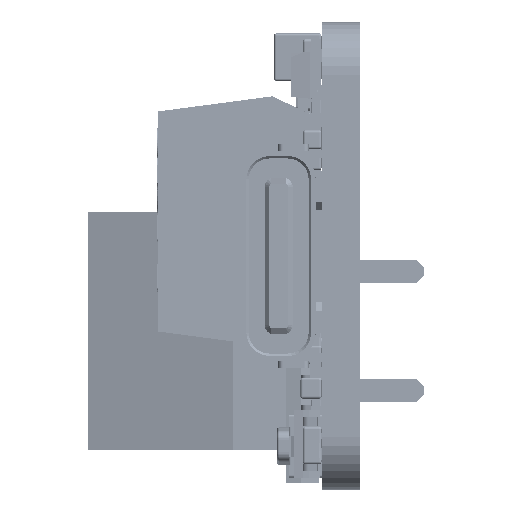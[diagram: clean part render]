
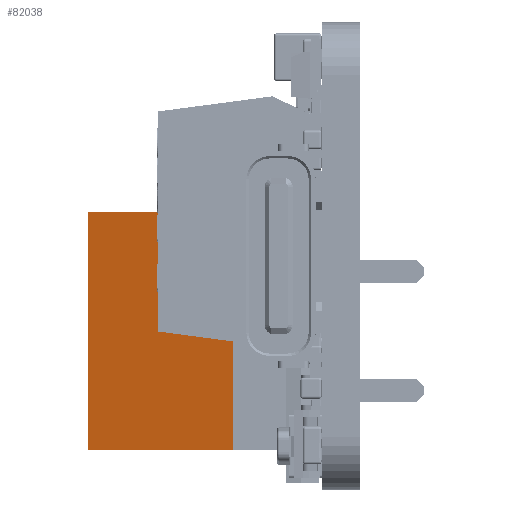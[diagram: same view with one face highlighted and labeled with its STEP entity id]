
A CAD part, left-side view. The second image highlights one B-rep face of the part: STEP entity #82038.
In plain terms, the highlighted planar face has unit normal (-0.968, 0.25, 0) as drawn and (0.968, 0.25, 0) by its records, which use the part's own axes.
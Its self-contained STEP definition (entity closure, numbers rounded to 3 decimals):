
#9812 = DIRECTION ( 'NONE',  ( -0.25, 0.968, 0. ) ) ;
#9843 = CARTESIAN_POINT ( 'NONE',  ( 4.05, 3.8, -5.08 ) ) ;
#10038 = CARTESIAN_POINT ( 'NONE',  ( 2.45, 10., 0. ) ) ;
#10042 = DIRECTION ( 'NONE',  ( 0., 0., 1. ) ) ;
#10096 = CARTESIAN_POINT ( 'NONE',  ( 4.05, 3.8, 5.08 ) ) ;
#10104 = DIRECTION ( 'NONE',  ( -0.25, 0.968, 0. ) ) ;
#10162 = CARTESIAN_POINT ( 'NONE',  ( 4.05, 3.8, 0. ) ) ;
#10198 = DIRECTION ( 'NONE',  ( 0., 0., 1. ) ) ;
#11618 = LINE ( 'NONE', #9843, #11623 ) ;
#11623 = VECTOR ( 'NONE', #9812, 1000. ) ;
#11782 = LINE ( 'NONE', #10096, #11843 ) ;
#11799 = VECTOR ( 'NONE', #10042, 1000. ) ;
#11834 = LINE ( 'NONE', #10038, #11799 ) ;
#11843 = VECTOR ( 'NONE', #10104, 1000. ) ;
#11970 = LINE ( 'NONE', #10162, #11979 ) ;
#11979 = VECTOR ( 'NONE', #10198, 1000. ) ;
#49929 = VERTEX_POINT ( 'NONE', #104864 ) ;
#49989 = VERTEX_POINT ( 'NONE', #104918 ) ;
#50016 = VERTEX_POINT ( 'NONE', #104885 ) ;
#50048 = VERTEX_POINT ( 'NONE', #104875 ) ;
#53979 = ORIENTED_EDGE ( 'NONE', *, *, #133361, .F. ) ;
#54045 = ORIENTED_EDGE ( 'NONE', *, *, #133315, .F. ) ;
#54075 = ORIENTED_EDGE ( 'NONE', *, *, #133270, .T. ) ;
#54120 = ORIENTED_EDGE ( 'NONE', *, *, #133333, .T. ) ;
#82038 = ADVANCED_FACE ( 'NONE', ( #260836 ), #244153, .T. ) ;
#104864 = CARTESIAN_POINT ( 'NONE',  ( 2.45, 10., 5.08 ) ) ;
#104875 = CARTESIAN_POINT ( 'NONE',  ( 4.05, 3.8, 5.08 ) ) ;
#104885 = CARTESIAN_POINT ( 'NONE',  ( 2.45, 10., -5.08 ) ) ;
#104918 = CARTESIAN_POINT ( 'NONE',  ( 4.05, 3.8, -5.08 ) ) ;
#133270 = EDGE_CURVE ( 'NONE', #49989, #50016, #11618, .T. ) ;
#133315 = EDGE_CURVE ( 'NONE', #50048, #49929, #11782, .T. ) ;
#133333 = EDGE_CURVE ( 'NONE', #50016, #49929, #11834, .T. ) ;
#133361 = EDGE_CURVE ( 'NONE', #49989, #50048, #11970, .T. ) ;
#160012 = AXIS2_PLACEMENT_3D ( 'NONE', #244176, #244249, #244250 ) ;
#244153 = PLANE ( 'NONE',  #160012 ) ;
#244176 = CARTESIAN_POINT ( 'NONE',  ( 4.05, 3.8, 0. ) ) ;
#244249 = DIRECTION ( 'NONE',  ( 0.968, 0.25, 0. ) ) ;
#244250 = DIRECTION ( 'NONE',  ( -0.25, 0.968, 0. ) ) ;
#260836 = FACE_OUTER_BOUND ( 'NONE', #323128, .T. ) ;
#323128 = EDGE_LOOP ( 'NONE', ( #54120, #54045, #53979, #54075 ) ) ;
